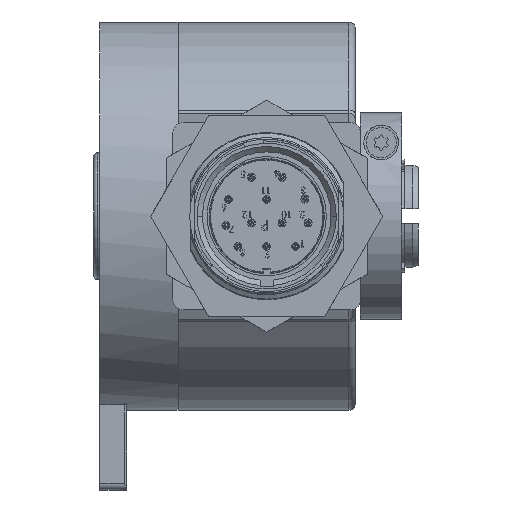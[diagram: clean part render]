
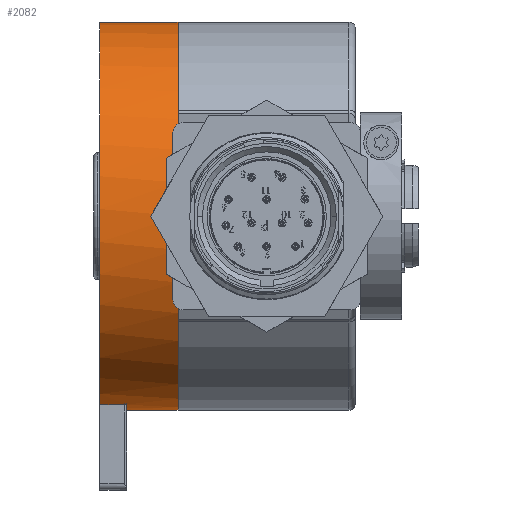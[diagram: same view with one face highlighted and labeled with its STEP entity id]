
A CAD part, front view. The second image highlights one B-rep face of the part: STEP entity #2082.
In plain terms, the highlighted cylindrical face has radius 29 mm (diameter 58 mm), a partial arc.
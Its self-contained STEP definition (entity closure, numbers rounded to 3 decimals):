
#462 = CIRCLE ( 'NONE', #15600, 29. ) ;
#2082 = ADVANCED_FACE ( 'NONE', ( #41243 ), #24966, .T. ) ;
#2826 = CARTESIAN_POINT ( 'NONE',  ( -3.622, 25.423, 29. ) ) ;
#3675 = VECTOR ( 'NONE', #43531, 1000. ) ;
#4848 = DIRECTION ( 'NONE',  ( 1., 0., 0. ) ) ;
#5014 = DIRECTION ( 'NONE',  ( 1., 0., 0. ) ) ;
#5641 = EDGE_CURVE ( 'NONE', #59534, #29775, #46580, .T. ) ;
#6870 = CARTESIAN_POINT ( 'NONE',  ( 8.068, 18.423, -28.142 ) ) ;
#6916 = ORIENTED_EDGE ( 'NONE', *, *, #45225, .T. ) ;
#7644 = CARTESIAN_POINT ( 'NONE',  ( 8.068, 25.423, -29. ) ) ;
#9582 = LINE ( 'NONE', #35089, #10968 ) ;
#10763 = CARTESIAN_POINT ( 'NONE',  ( 0.378, 18.423, -28.142 ) ) ;
#10968 = VECTOR ( 'NONE', #4848, 1000. ) ;
#12044 = DIRECTION ( 'NONE',  ( 0., 0., -1. ) ) ;
#12285 = LINE ( 'NONE', #6870, #3675 ) ;
#12576 = EDGE_CURVE ( 'NONE', #53340, #16263, #462, .T. ) ;
#13089 = AXIS2_PLACEMENT_3D ( 'NONE', #25967, #16471, #12044 ) ;
#14400 = DIRECTION ( 'NONE',  ( 0., 0., -1. ) ) ;
#15243 = AXIS2_PLACEMENT_3D ( 'NONE', #50096, #44988, #14400 ) ;
#15600 = AXIS2_PLACEMENT_3D ( 'NONE', #52935, #5014, #42340 ) ;
#16263 = VERTEX_POINT ( 'NONE', #66787 ) ;
#16471 = DIRECTION ( 'NONE',  ( 1., 0., 0. ) ) ;
#16757 = EDGE_CURVE ( 'NONE', #53340, #57968, #12285, .T. ) ;
#21891 = ORIENTED_EDGE ( 'NONE', *, *, #25818, .F. ) ;
#24966 = CYLINDRICAL_SURFACE ( 'NONE', #44237, 29. ) ;
#25152 = CARTESIAN_POINT ( 'NONE',  ( 8.068, 25.423, 29. ) ) ;
#25818 = EDGE_CURVE ( 'NONE', #29775, #35616, #26098, .T. ) ;
#25967 = CARTESIAN_POINT ( 'NONE',  ( -3.622, 25.423, 0. ) ) ;
#26098 = CIRCLE ( 'NONE', #15243, 29. ) ;
#29775 = VERTEX_POINT ( 'NONE', #25152 ) ;
#35089 = CARTESIAN_POINT ( 'NONE',  ( 8.068, 25.423, -29. ) ) ;
#35172 = DIRECTION ( 'NONE',  ( 1., 0., 0. ) ) ;
#35616 = VERTEX_POINT ( 'NONE', #7644 ) ;
#39082 = ORIENTED_EDGE ( 'NONE', *, *, #12576, .T. ) ;
#39382 = ORIENTED_EDGE ( 'NONE', *, *, #16757, .F. ) ;
#40912 = CARTESIAN_POINT ( 'NONE',  ( 8.068, 25.423, 0. ) ) ;
#41243 = FACE_OUTER_BOUND ( 'NONE', #46998, .T. ) ;
#42121 = DIRECTION ( 'NONE',  ( 1., 0., 0. ) ) ;
#42340 = DIRECTION ( 'NONE',  ( 0., 0., 1. ) ) ;
#43531 = DIRECTION ( 'NONE',  ( -1., 0., 0. ) ) ;
#44237 = AXIS2_PLACEMENT_3D ( 'NONE', #40912, #35172, #55944 ) ;
#44823 = CARTESIAN_POINT ( 'NONE',  ( -3.622, 18.423, -28.142 ) ) ;
#44988 = DIRECTION ( 'NONE',  ( 1., 0., 0. ) ) ;
#45225 = EDGE_CURVE ( 'NONE', #59534, #57968, #59793, .T. ) ;
#45767 = ORIENTED_EDGE ( 'NONE', *, *, #66567, .T. ) ;
#46580 = LINE ( 'NONE', #62559, #53189 ) ;
#46998 = EDGE_LOOP ( 'NONE', ( #55761, #6916, #39382, #39082, #45767, #21891 ) ) ;
#50096 = CARTESIAN_POINT ( 'NONE',  ( 8.068, 25.423, 0. ) ) ;
#52935 = CARTESIAN_POINT ( 'NONE',  ( 0.378, 25.423, 0. ) ) ;
#53189 = VECTOR ( 'NONE', #42121, 1000. ) ;
#53340 = VERTEX_POINT ( 'NONE', #10763 ) ;
#55761 = ORIENTED_EDGE ( 'NONE', *, *, #5641, .F. ) ;
#55944 = DIRECTION ( 'NONE',  ( 0., 0., -1. ) ) ;
#57968 = VERTEX_POINT ( 'NONE', #44823 ) ;
#59534 = VERTEX_POINT ( 'NONE', #2826 ) ;
#59793 = CIRCLE ( 'NONE', #13089, 29. ) ;
#62559 = CARTESIAN_POINT ( 'NONE',  ( 8.068, 25.423, 29. ) ) ;
#66567 = EDGE_CURVE ( 'NONE', #16263, #35616, #9582, .T. ) ;
#66787 = CARTESIAN_POINT ( 'NONE',  ( 0.378, 25.423, -29. ) ) ;
